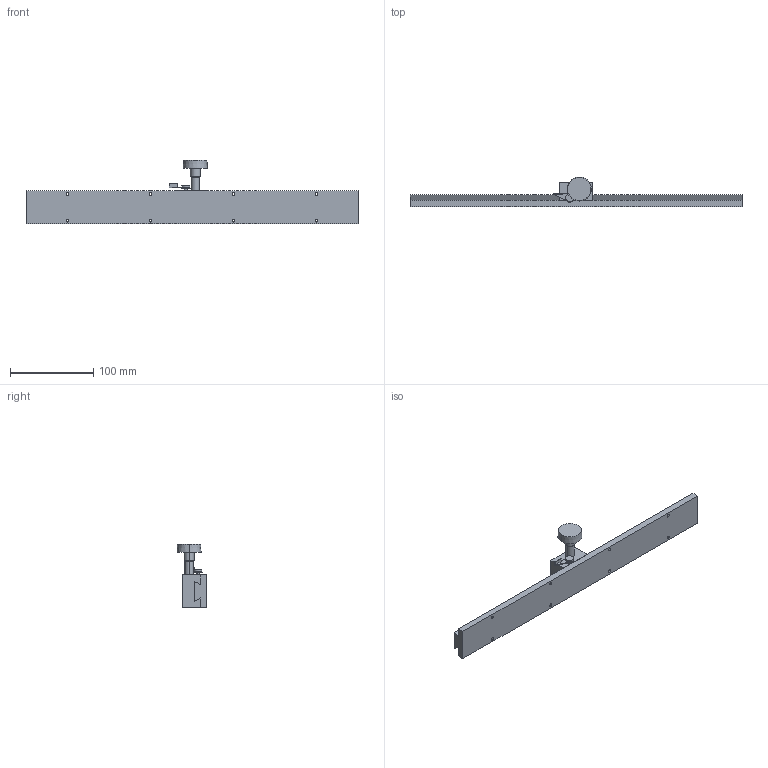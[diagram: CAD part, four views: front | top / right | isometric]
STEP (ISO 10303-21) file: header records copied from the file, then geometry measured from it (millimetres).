
FILE_DESCRIPTION (( 'STEP AP203' ), '1' );
FILE_NAME ('LS-414L4.STEP', '2012-07-04T06:47:58', ( '' ), ( '' ), 'SwSTEP 2.0', 'SolidWorks 2011', '' );
FILE_SCHEMA (( 'CONFIG_CONTROL_DESIGN' ));
Length unit declared in the file: millimetre
Products named in the file (3): LS-414L4; LS-414L4-2; LS-414L4-1
Assembly tree (2 placements, depth 2):
  LS-414L4
    LS-414L4-1
    LS-414L4-2
Bounding box: 400 x 36 x 77 mm (x, y, z)
Volume: 216539 mm3; surface area: 60994.3 mm2
Topology: 2 solids, 2 shells, 164 faces, 380 edges, 239 vertices
Faces by surface type: cylinder 82, plane 64, cone 18
Entity records: 4928 total; most frequent: DIRECTION 873, CARTESIAN_POINT 772, ORIENTED_EDGE 728, EDGE_CURVE 364, AXIS2_PLACEMENT_3D 340, VERTEX_POINT 239, EDGE_LOOP 215, LINE 193
